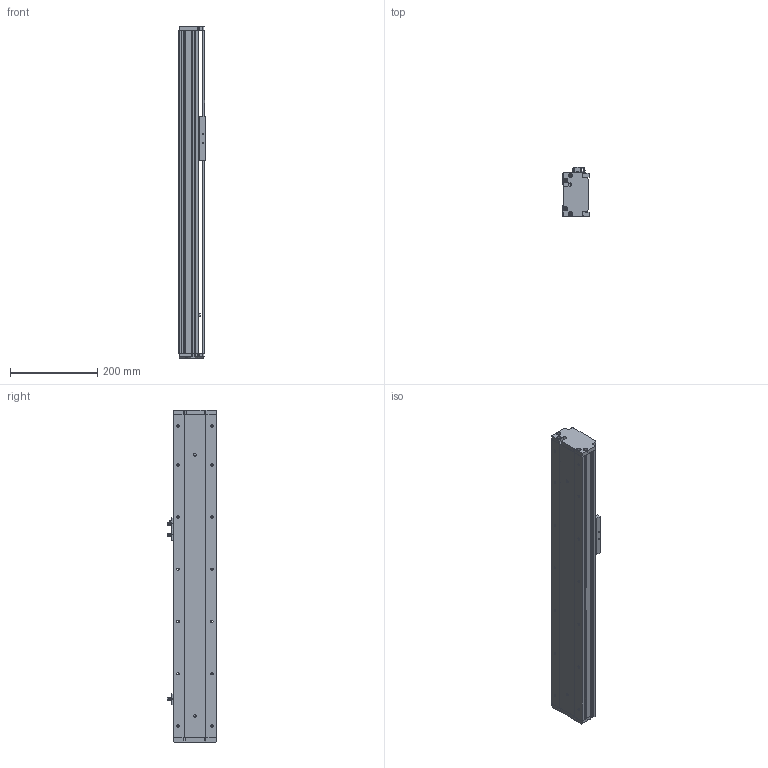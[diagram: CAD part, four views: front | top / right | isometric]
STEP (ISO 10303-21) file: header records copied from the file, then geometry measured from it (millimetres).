
FILE_DESCRIPTION (( 'STEP AP214' ), '1' );
FILE_NAME ('KSD100S-S400-M-CM.STEP', '2019-08-29T08:35:46', ( '微软用户' ), ( '微软中国' ), 'SwSTEP 2.0', 'SolidWorks 2014', '' );
FILE_SCHEMA (( 'AUTOMOTIVE_DESIGN' ));
Length unit declared in the file: millimetre
Products named in the file (8): KSD100S-S400-M-CM; 覜茼え100遵圉猾敕; U倰嫖萇EEㄜSX672; 100宽防尘板丝杆400行程电机内装; 100宽马达安装板-电机内装; 100宽滚珠螺姆安装板半封闭; 100遵傷啣; 100宽底板半封闭丝杆400行程电机内装
Assembly tree (9 placements, depth 2):
  KSD100S-S400-M-CM
    100宽底板半封闭丝杆400行程电机内装
    100遵傷啣
    100宽滚珠螺姆安装板半封闭
    100宽马达安装板-电机内装
    100宽防尘板丝杆400行程电机内装
    U倰嫖萇EEㄜSX672  x3
    覜茼え100遵圉猾敕
Bounding box: 60 x 113.7 x 763 mm (x, y, z)
Volume: 1519554.8 mm3; surface area: 550518.3 mm2
Topology: 9 solids, 9 shells, 1013 faces, 2880 edges, 1823 vertices
Faces by surface type: cylinder 464, plane 440, cone 109
Entity records: 34714 total; most frequent: CARTESIAN_POINT 6962, DIRECTION 4525, ORIENTED_EDGE 4444, EDGE_CURVE 2222, AXIS2_PLACEMENT_3D 1614, VERTEX_POINT 1447, LINE 1297, VECTOR 1297
